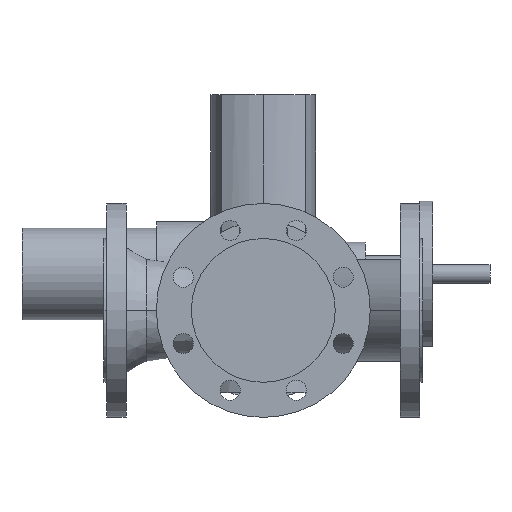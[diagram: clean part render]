
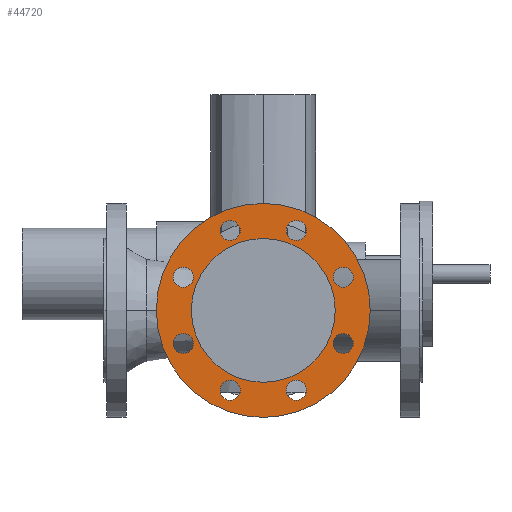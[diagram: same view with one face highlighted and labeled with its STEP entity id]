
A CAD part, front view. The second image highlights one B-rep face of the part: STEP entity #44720.
In plain terms, the highlighted planar face has unit normal (0, -1, 0).
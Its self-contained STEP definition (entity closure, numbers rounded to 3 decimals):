
#3640=CARTESIAN_POINT('',(254.,-147.,0.));
#3650=VERTEX_POINT('',#3640);
#3830=CARTESIAN_POINT('',(96.,-147.,0.));
#3840=VERTEX_POINT('',#3830);
#3870=CARTESIAN_POINT('',(175.,-147.,0.));
#3880=DIRECTION('',(0.,-1.,0.));
#3890=DIRECTION('',(1.,0.,0.));
#3900=AXIS2_PLACEMENT_3D('',#3870,#3880,#3890);
#3910=CIRCLE('',#3900,79.);
#3920=EDGE_CURVE('',#3650,#3840,#3910,.T.);
#10600=CARTESIAN_POINT('',(57.5,-147.,0.));
#10610=VERTEX_POINT('',#10600);
#10640=CARTESIAN_POINT('',(175.,-147.,0.));
#10650=DIRECTION('',(0.,1.,0.));
#10660=DIRECTION('',(1.,0.,0.));
#10670=AXIS2_PLACEMENT_3D('',#10640,#10650,#10660);
#10680=CIRCLE('',#10670,117.5);
#10690=CARTESIAN_POINT('',(292.5,-147.,0.));
#10700=VERTEX_POINT('',#10690);
#10710=EDGE_CURVE('',#10700,#10610,#10680,.T.);
#11020=CARTESIAN_POINT('',(251.769,-147.,-36.355));
#11030=VERTEX_POINT('',#11020);
#11060=CARTESIAN_POINT('',(262.769,-147.,-36.355));
#11070=DIRECTION('',(0.,1.,0.));
#11080=DIRECTION('',(1.,0.,0.));
#11090=AXIS2_PLACEMENT_3D('',#11060,#11070,#11080);
#11100=CIRCLE('',#11090,11.);
#11110=CARTESIAN_POINT('',(273.769,-147.,-36.355));
#11120=VERTEX_POINT('',#11110);
#11130=EDGE_CURVE('',#11030,#11120,#11100,.T.);
#11440=CARTESIAN_POINT('',(251.769,-147.,36.355));
#11450=VERTEX_POINT('',#11440);
#11480=CARTESIAN_POINT('',(262.769,-147.,36.355));
#11490=DIRECTION('',(0.,1.,0.));
#11500=DIRECTION('',(1.,0.,0.));
#11510=AXIS2_PLACEMENT_3D('',#11480,#11490,#11500);
#11520=CIRCLE('',#11510,11.);
#11530=CARTESIAN_POINT('',(273.769,-147.,36.355));
#11540=VERTEX_POINT('',#11530);
#11550=EDGE_CURVE('',#11450,#11540,#11520,.T.);
#11860=CARTESIAN_POINT('',(222.355,-147.,-87.769));
#11870=VERTEX_POINT('',#11860);
#11900=CARTESIAN_POINT('',(211.355,-147.,-87.769));
#11910=DIRECTION('',(0.,1.,0.));
#11920=DIRECTION('',(1.,0.,0.));
#11930=AXIS2_PLACEMENT_3D('',#11900,#11910,#11920);
#11940=CIRCLE('',#11930,11.);
#11950=CARTESIAN_POINT('',(200.355,-147.,-87.769));
#11960=VERTEX_POINT('',#11950);
#11970=EDGE_CURVE('',#11870,#11960,#11940,.T.);
#12280=CARTESIAN_POINT('',(222.355,-147.,87.769));
#12290=VERTEX_POINT('',#12280);
#12450=CARTESIAN_POINT('',(200.355,-147.,87.769));
#12460=VERTEX_POINT('',#12450);
#12490=CARTESIAN_POINT('',(211.355,-147.,87.769));
#12500=DIRECTION('',(0.,1.,0.));
#12510=DIRECTION('',(1.,0.,0.));
#12520=AXIS2_PLACEMENT_3D('',#12490,#12500,#12510);
#12530=CIRCLE('',#12520,11.);
#12540=EDGE_CURVE('',#12460,#12290,#12530,.T.);
#12700=CARTESIAN_POINT('',(149.645,-147.,-87.769));
#12710=VERTEX_POINT('',#12700);
#12740=CARTESIAN_POINT('',(138.645,-147.,-87.769));
#12750=DIRECTION('',(0.,1.,0.));
#12760=DIRECTION('',(1.,0.,0.));
#12770=AXIS2_PLACEMENT_3D('',#12740,#12750,#12760);
#12780=CIRCLE('',#12770,11.);
#12790=CARTESIAN_POINT('',(127.645,-147.,-87.769));
#12800=VERTEX_POINT('',#12790);
#12810=EDGE_CURVE('',#12710,#12800,#12780,.T.);
#13120=CARTESIAN_POINT('',(149.645,-147.,87.769));
#13130=VERTEX_POINT('',#13120);
#13160=CARTESIAN_POINT('',(138.645,-147.,87.769));
#13170=DIRECTION('',(0.,1.,0.));
#13180=DIRECTION('',(1.,0.,0.));
#13190=AXIS2_PLACEMENT_3D('',#13160,#13170,#13180);
#13200=CIRCLE('',#13190,11.);
#13210=CARTESIAN_POINT('',(127.645,-147.,87.769));
#13220=VERTEX_POINT('',#13210);
#13230=EDGE_CURVE('',#13130,#13220,#13200,.T.);
#13540=CARTESIAN_POINT('',(76.231,-147.,-36.355));
#13550=VERTEX_POINT('',#13540);
#13710=CARTESIAN_POINT('',(98.231,-147.,-36.355));
#13720=VERTEX_POINT('',#13710);
#13750=CARTESIAN_POINT('',(87.231,-147.,-36.355));
#13760=DIRECTION('',(0.,1.,0.));
#13770=DIRECTION('',(1.,0.,0.));
#13780=AXIS2_PLACEMENT_3D('',#13750,#13760,#13770);
#13790=CIRCLE('',#13780,11.);
#13800=EDGE_CURVE('',#13720,#13550,#13790,.T.);
#13960=CARTESIAN_POINT('',(98.231,-147.,36.355));
#13970=VERTEX_POINT('',#13960);
#14000=CARTESIAN_POINT('',(87.231,-147.,36.355));
#14010=DIRECTION('',(0.,1.,0.));
#14020=DIRECTION('',(1.,0.,0.));
#14030=AXIS2_PLACEMENT_3D('',#14000,#14010,#14020);
#14040=CIRCLE('',#14030,11.);
#14050=CARTESIAN_POINT('',(76.231,-147.,36.355));
#14060=VERTEX_POINT('',#14050);
#14070=EDGE_CURVE('',#13970,#14060,#14040,.T.);
#44170=CARTESIAN_POINT('',(175.,-147.,0.));
#44180=DIRECTION('',(0.,1.,0.));
#44190=DIRECTION('',(0.,0.,1.));
#44200=AXIS2_PLACEMENT_3D('',#44170,#44180,#44190);
#44210=PLANE('',#44200);
#44220=EDGE_CURVE('',#14060,#13970,#14040,.T.);
#44230=ORIENTED_EDGE('',*,*,#44220,.T.);
#44240=ORIENTED_EDGE('',*,*,#14070,.T.);
#44250=EDGE_LOOP('',(#44240,#44230));
#44260=FACE_BOUND('',#44250,.T.);
#44270=EDGE_CURVE('',#13550,#13720,#13790,.T.);
#44280=ORIENTED_EDGE('',*,*,#44270,.T.);
#44290=ORIENTED_EDGE('',*,*,#13800,.T.);
#44300=EDGE_LOOP('',(#44290,#44280));
#44310=FACE_BOUND('',#44300,.T.);
#44320=ORIENTED_EDGE('',*,*,#13230,.T.);
#44330=EDGE_CURVE('',#13220,#13130,#13200,.T.);
#44340=ORIENTED_EDGE('',*,*,#44330,.T.);
#44350=EDGE_LOOP('',(#44340,#44320));
#44360=FACE_BOUND('',#44350,.T.);
#44370=EDGE_CURVE('',#12800,#12710,#12780,.T.);
#44380=ORIENTED_EDGE('',*,*,#44370,.T.);
#44390=ORIENTED_EDGE('',*,*,#12810,.T.);
#44400=EDGE_LOOP('',(#44390,#44380));
#44410=FACE_BOUND('',#44400,.T.);
#44420=EDGE_CURVE('',#12290,#12460,#12530,.T.);
#44430=ORIENTED_EDGE('',*,*,#44420,.T.);
#44440=ORIENTED_EDGE('',*,*,#12540,.T.);
#44450=EDGE_LOOP('',(#44440,#44430));
#44460=FACE_BOUND('',#44450,.T.);
#44470=ORIENTED_EDGE('',*,*,#11970,.T.);
#44480=EDGE_CURVE('',#11960,#11870,#11940,.T.);
#44490=ORIENTED_EDGE('',*,*,#44480,.T.);
#44500=EDGE_LOOP('',(#44490,#44470));
#44510=FACE_BOUND('',#44500,.T.);
#44520=ORIENTED_EDGE('',*,*,#11550,.T.);
#44530=EDGE_CURVE('',#11540,#11450,#11520,.T.);
#44540=ORIENTED_EDGE('',*,*,#44530,.T.);
#44550=EDGE_LOOP('',(#44540,#44520));
#44560=FACE_BOUND('',#44550,.T.);
#44570=EDGE_CURVE('',#11120,#11030,#11100,.T.);
#44580=ORIENTED_EDGE('',*,*,#44570,.T.);
#44590=ORIENTED_EDGE('',*,*,#11130,.T.);
#44600=EDGE_LOOP('',(#44590,#44580));
#44610=FACE_BOUND('',#44600,.T.);
#44620=EDGE_CURVE('',#10610,#10700,#10680,.T.);
#44630=ORIENTED_EDGE('',*,*,#44620,.F.);
#44640=ORIENTED_EDGE('',*,*,#10710,.F.);
#44650=EDGE_LOOP('',(#44640,#44630));
#44660=FACE_OUTER_BOUND('',#44650,.T.);
#44670=EDGE_CURVE('',#3840,#3650,#3910,.T.);
#44680=ORIENTED_EDGE('',*,*,#44670,.F.);
#44690=ORIENTED_EDGE('',*,*,#3920,.F.);
#44700=EDGE_LOOP('',(#44690,#44680));
#44710=FACE_BOUND('',#44700,.T.);
#44720=ADVANCED_FACE('',(#44260,#44310,#44360,#44410,#44460,#44510,
#44560,#44610,#44660,#44710),#44210,.F.);
